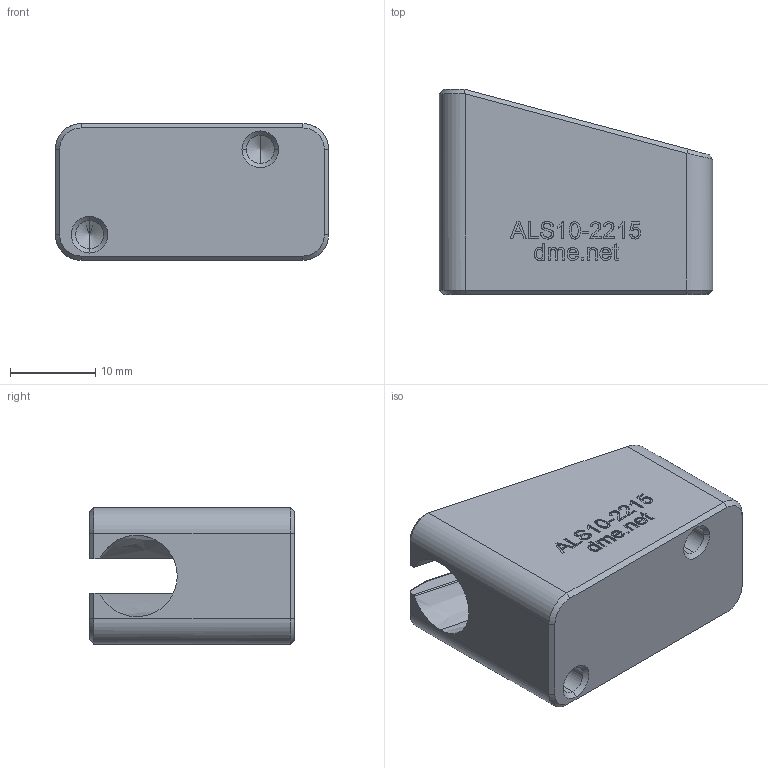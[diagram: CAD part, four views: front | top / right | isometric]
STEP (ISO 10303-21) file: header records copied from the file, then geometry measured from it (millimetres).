
FILE_DESCRIPTION (( 'STEP AP203' ), '1' );
FILE_NAME ('ALS10-2215.STEP', '2021-01-10T21:20:22', ( '' ), ( '' ), 'SwSTEP 2.0', 'SolidWorks 2020', '' );
FILE_SCHEMA (( 'CONFIG_CONTROL_DESIGN' ));
Length unit declared in the file: millimetre
Products named in the file (1): ALS10-2215
Bounding box: 32 x 24 x 16 mm (x, y, z)
Volume: 7663.9 mm3; surface area: 3675.7 mm2
Topology: 1 solids, 1 shells, 272 faces, 721 edges, 471 vertices
Faces by surface type: plane 137, bspline 107, cone 14, cylinder 14
Entity records: 14077 total; most frequent: CARTESIAN_POINT 8036, ORIENTED_EDGE 1434, DIRECTION 845, EDGE_CURVE 717, VERTEX_POINT 471, LINE 461, VECTOR 461, EDGE_LOOP 296
